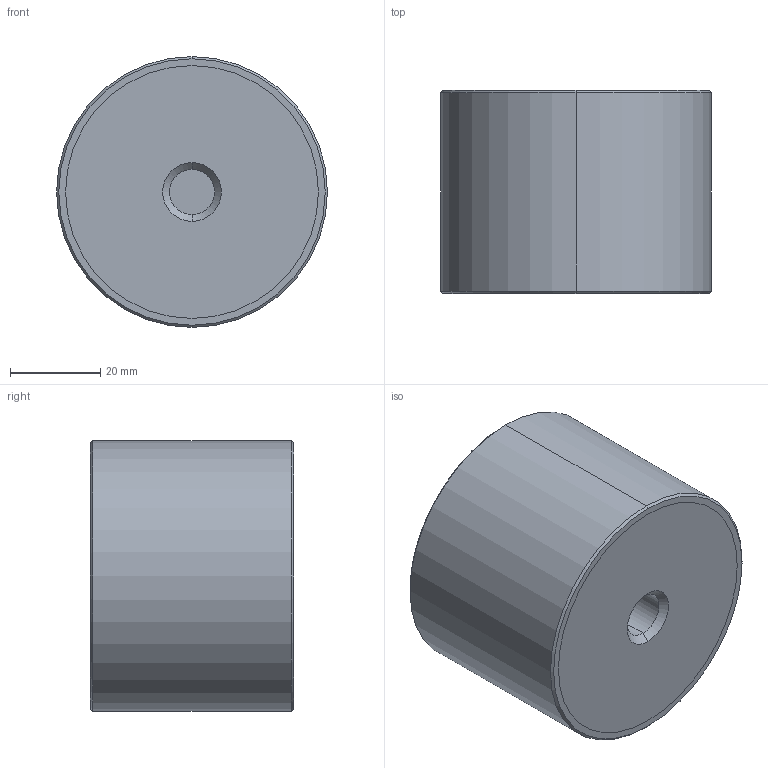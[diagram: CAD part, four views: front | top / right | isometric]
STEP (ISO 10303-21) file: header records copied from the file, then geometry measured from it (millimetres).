
FILE_DESCRIPTION (( 'STEP AP203' ), '1' );
FILE_NAME ('61080.W0602.step', '2018-07-16T20:45:41', ( '' ), ( '' ), 'SwSTEP 2.0', 'SolidWorks 2017', '' );
FILE_SCHEMA (( 'CONFIG_CONTROL_DESIGN' ));
Length unit declared in the file: millimetre
Products named in the file (4): Part3_61080.W0602; Part2_61080.W0602; 61080.W0602; Part1_61080.W0602
Assembly tree (3 placements, depth 2):
  61080.W0602
    Part1_61080.W0602
    Part2_61080.W0602
    Part3_61080.W0602
Bounding box: 60 x 45 x 60 mm (x, y, z)
Volume: 125539.1 mm3; surface area: 25198.5 mm2
Topology: 3 solids, 3 shells, 32 faces, 62 edges, 40 vertices
Faces by surface type: cylinder 14, plane 10, cone 8
Entity records: 1256 total; most frequent: DIRECTION 178, CARTESIAN_POINT 140, ORIENTED_EDGE 124, AXIS2_PLACEMENT_3D 78, EDGE_CURVE 62, CIRCLE 40, EDGE_LOOP 40, VERTEX_POINT 40
